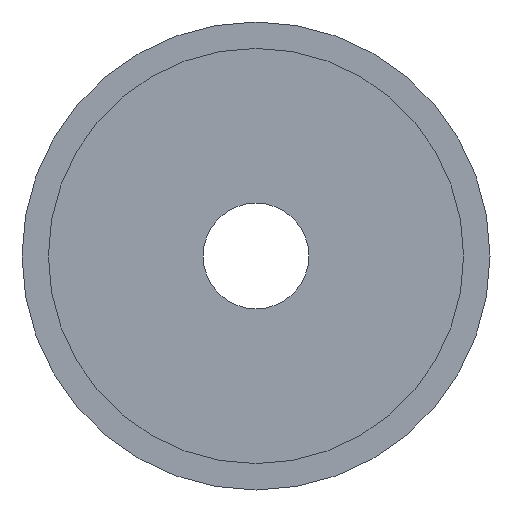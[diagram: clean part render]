
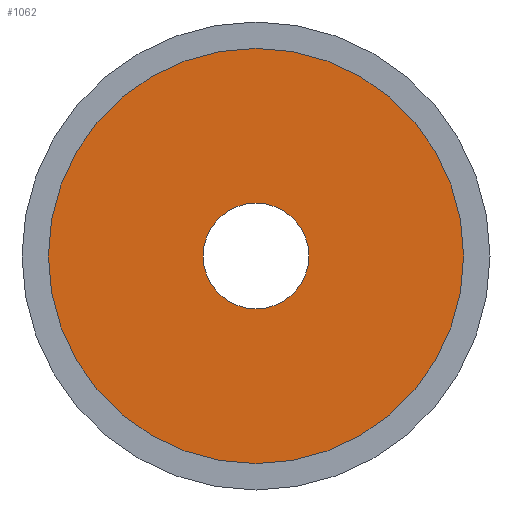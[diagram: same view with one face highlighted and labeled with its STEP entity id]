
A CAD part, front view. The second image highlights one B-rep face of the part: STEP entity #1062.
In plain terms, the highlighted planar face has unit normal (0, -1, 0).
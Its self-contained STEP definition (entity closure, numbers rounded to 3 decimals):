
#18 = CARTESIAN_POINT ( 'NONE',  ( 0., -15., 27.5 ) ) ;
#34 = DIRECTION ( 'NONE',  ( 0., 0., -1. ) ) ;
#38 = ORIENTED_EDGE ( 'NONE', *, *, #1789, .F. ) ;
#41 = AXIS2_PLACEMENT_3D ( 'NONE', #1464, #506, #34 ) ;
#56 = EDGE_LOOP ( 'NONE', ( #1872, #694 ) ) ;
#67 = CARTESIAN_POINT ( 'NONE',  ( 0., -15., 7. ) ) ;
#72 = CIRCLE ( 'NONE', #1640, 27.5 ) ;
#74 = CIRCLE ( 'NONE', #41, 7. ) ;
#79 = EDGE_LOOP ( 'NONE', ( #1846, #38 ) ) ;
#97 = CIRCLE ( 'NONE', #748, 27.5 ) ;
#119 = CIRCLE ( 'NONE', #1048, 7. ) ;
#258 = VERTEX_POINT ( 'NONE', #952 ) ;
#270 = FACE_BOUND ( 'NONE', #79, .T. ) ;
#409 = DIRECTION ( 'NONE',  ( 0., 0., -1. ) ) ;
#439 = DIRECTION ( 'NONE',  ( 0., 0., -1. ) ) ;
#506 = DIRECTION ( 'NONE',  ( 0., -1., 0. ) ) ;
#622 = VERTEX_POINT ( 'NONE', #18 ) ;
#636 = VERTEX_POINT ( 'NONE', #1896 ) ;
#674 = CARTESIAN_POINT ( 'NONE',  ( 0., -15., 0. ) ) ;
#681 = DIRECTION ( 'NONE',  ( 0., 0., -1. ) ) ;
#694 = ORIENTED_EDGE ( 'NONE', *, *, #1817, .T. ) ;
#732 = CARTESIAN_POINT ( 'NONE',  ( 0., -15., 0. ) ) ;
#748 = AXIS2_PLACEMENT_3D ( 'NONE', #732, #1039, #409 ) ;
#818 = FACE_OUTER_BOUND ( 'NONE', #56, .T. ) ;
#952 = CARTESIAN_POINT ( 'NONE',  ( 0., -15., -27.5 ) ) ;
#1014 = DIRECTION ( 'NONE',  ( 0., -1., 0. ) ) ;
#1039 = DIRECTION ( 'NONE',  ( 0., -1., 0. ) ) ;
#1041 = DIRECTION ( 'NONE',  ( 0., -1., 0. ) ) ;
#1048 = AXIS2_PLACEMENT_3D ( 'NONE', #674, #1041, #439 ) ;
#1062 = ADVANCED_FACE ( 'NONE', ( #270, #818 ), #1137, .F. ) ;
#1137 = PLANE ( 'NONE',  #1543 ) ;
#1152 = CARTESIAN_POINT ( 'NONE',  ( 0., -15., 7. ) ) ;
#1280 = VERTEX_POINT ( 'NONE', #67 ) ;
#1291 = DIRECTION ( 'NONE',  ( 0., 1., 0. ) ) ;
#1317 = DIRECTION ( 'NONE',  ( 0., 0., 1. ) ) ;
#1345 = EDGE_CURVE ( 'NONE', #258, #622, #97, .T. ) ;
#1464 = CARTESIAN_POINT ( 'NONE',  ( 0., -15., 0. ) ) ;
#1543 = AXIS2_PLACEMENT_3D ( 'NONE', #1152, #1291, #1317 ) ;
#1640 = AXIS2_PLACEMENT_3D ( 'NONE', #1972, #1014, #681 ) ;
#1789 = EDGE_CURVE ( 'NONE', #1280, #636, #74, .T. ) ;
#1817 = EDGE_CURVE ( 'NONE', #622, #258, #72, .T. ) ;
#1846 = ORIENTED_EDGE ( 'NONE', *, *, #2045, .F. ) ;
#1872 = ORIENTED_EDGE ( 'NONE', *, *, #1345, .T. ) ;
#1896 = CARTESIAN_POINT ( 'NONE',  ( 0., -15., -7. ) ) ;
#1972 = CARTESIAN_POINT ( 'NONE',  ( 0., -15., 0. ) ) ;
#2045 = EDGE_CURVE ( 'NONE', #636, #1280, #119, .T. ) ;
